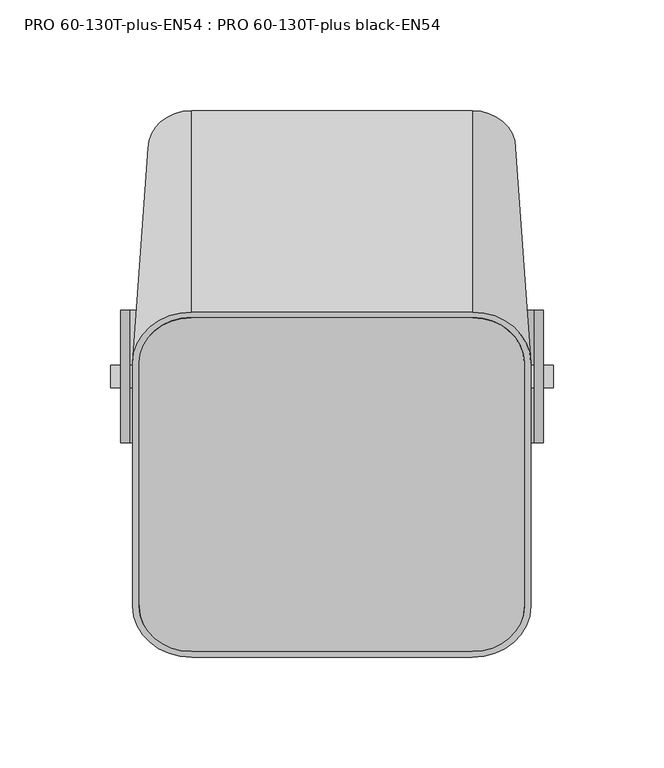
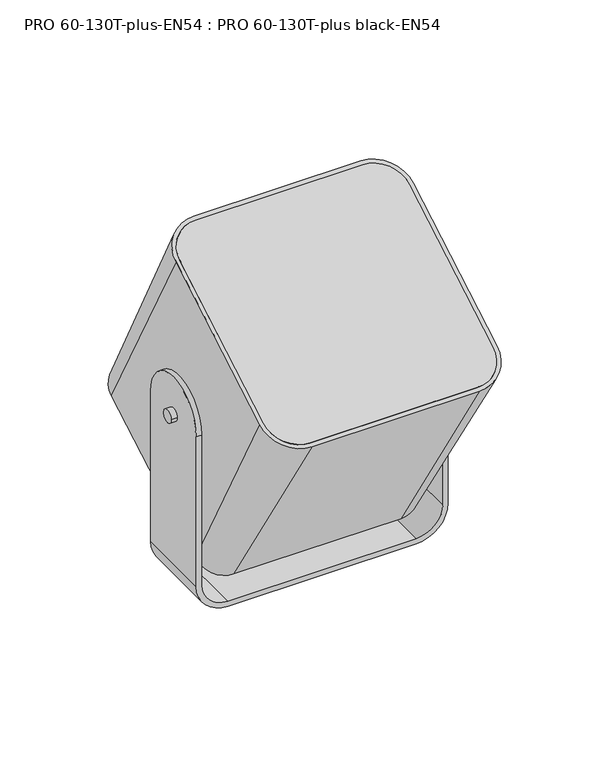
"""IFC4 building model written with IfcOpenShell, lengths in millimetres: proxy geometry, PRO 60-130T-plus-EN54 : PRO 60-130T-plus black-EN54."""

from ifc_helpers import new_model, si_unit, point, frame, frame_2d, origin, place, context, project, spatial, polyline, circle_curve, ellipse_curve, trimmed, segment, composite_curve, outline, extrude, source, transform, mapped, element, save
from ifc_brep_helpers import plane_surface, cylinder_surface, revolved_surface, advanced_brep


def pro_60_130t_plus_en54_pro_60_130t_plus_black_en54_e2d8d6e3(model_context):
    return source(origin(), model_context, "Body", "SolidModel", [
        advanced_brep(
        [(-6.5506555, 12.2914038, 35.3380421), (-6.5506555, 6.5518923, 32.0243336), (-11.236947, 2.4934448, 29.6811878), (-17.864364, 2.4934448, 29.6811878), (-22.5506555, 6.5518923, 32.0243336), (-22.5506555, 12.2914038, 35.3380421), (-17.864364, 16.3498513, 37.6811878), (-11.236947, 16.3498513, 37.6811878), (-14.5506555, 14.6178005, 36.6811878), (-14.5506555, 4.2254956, 30.6811878), (-6.5506555, 10.2914038, 38.8021437), (-11.236947, 14.3498513, 41.1452894), (-17.864364, 14.3498513, 41.1452894), (-22.5506555, 10.2914038, 38.8021437), (-22.5506555, 4.5518923, 35.4884352), (-17.864364, 0.4934448, 33.1452894), (-11.236947, 0.4934448, 33.1452894), (-6.5506555, 4.5518923, 35.4884352), (-14.5506555, 5.2254956, 28.949137), (-14.5506555, 15.6178005, 34.949137), (-6.5506555, 17.5914038, 26.1581728), (-6.5506555, 11.8518923, 22.8444643), (-11.236947, 7.7934448, 20.5013186), (-17.864364, 7.7934448, 20.5013186), (-22.5506555, 11.8518923, 22.8444643), (-22.5506555, 17.5914038, 26.1581728), (-17.864364, 21.6498513, 28.5013186), (-11.236947, 21.6498513, 28.5013186), (-14.5506555, 20.7838259, 28.0013186), (-14.5506555, 8.6594702, 21.0013186), (-6.5506555, 13.2914038, 33.6059913), (-11.236947, 17.3498513, 35.949137), (-17.864364, 17.3498513, 35.949137), (-22.5506555, 13.2914038, 33.6059913), (-22.5506555, 7.5518923, 30.2922828), (-17.864364, 3.4934448, 27.949137), (-11.236947, 3.4934448, 27.949137), (-6.5506555, 7.5518923, 30.2922828), (-14.5506555, 9.4094702, 19.7022804), (-14.5506555, 21.5338259, 26.7022804), (-14.5506555, 20.0697243, 21.2381788), (-14.5506555, 14.8735718, 18.2381788), (-14.5506555, 17.471648, 19.7381788)],
        [
            (0, 1),
            (1, 2),
            (2, 3),
            (3, 4),
            (4, 5),
            (5, 6),
            (6, 7),
            (7, 0),
            (8, 9, circle_curve(frame((-14.5506555, 9.421648, 33.6811878), z_axis=(0.0, -0.5000000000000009, 0.8660254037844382), x_axis=(0.0, 0.8660254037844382, 0.5000000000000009)), 6.0)),
            (9, 8, circle_curve(frame((-14.5506555, 9.421648, 33.6811878), z_axis=(0.0, -0.5000000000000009, 0.8660254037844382), x_axis=(0.0, 0.8660254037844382, 0.5000000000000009)), 6.0)),
            (10, 11),
            (11, 12),
            (12, 13),
            (13, 14),
            (14, 15),
            (15, 16),
            (16, 17),
            (17, 10),
            (18, 9),
            (8, 19),
            (19, 18, circle_curve(frame((-14.5506555, 10.421648, 31.949137), z_axis=(0.0, -0.5000000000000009, 0.8660254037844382), x_axis=(0.0, 0.8660254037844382, 0.5000000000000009)), 6.0)),
            (18, 19, circle_curve(frame((-14.5506555, 10.421648, 31.949137), z_axis=(0.0, -0.5000000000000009, 0.8660254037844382), x_axis=(0.0, 0.8660254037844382, 0.5000000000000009)), 6.0)),
            (20, 21),
            (21, 22),
            (22, 23),
            (23, 24),
            (24, 25),
            (25, 26),
            (26, 27),
            (27, 20),
            (28, 29, circle_curve(frame((-14.5506555, 14.721648, 24.5013186), z_axis=(0.0, -0.5000000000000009, 0.8660254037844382), x_axis=(0.0, 0.8660254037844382, 0.5000000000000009)), 7.0)),
            (29, 28, circle_curve(frame((-14.5506555, 14.721648, 24.5013186), z_axis=(0.0, -0.5000000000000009, 0.8660254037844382), x_axis=(0.0, 0.8660254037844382, 0.5000000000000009)), 7.0)),
            (30, 31),
            (31, 32),
            (32, 33),
            (33, 34),
            (34, 35),
            (35, 36),
            (36, 37),
            (37, 30),
            (38, 29),
            (28, 39),
            (39, 38, circle_curve(frame((-14.5506555, 15.471648, 23.2022804), z_axis=(0.0, -0.5000000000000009, 0.8660254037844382), x_axis=(0.0, 0.8660254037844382, 0.5000000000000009)), 7.0)),
            (38, 39, circle_curve(frame((-14.5506555, 15.471648, 23.2022804), z_axis=(0.0, -0.5000000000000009, 0.8660254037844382), x_axis=(0.0, 0.8660254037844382, 0.5000000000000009)), 7.0)),
            (40, 41, circle_curve(frame((-14.5506555, 17.471648, 19.7381788), z_axis=(0.0, 0.5000000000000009, -0.8660254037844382), x_axis=(0.0, -0.8660254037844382, -0.5000000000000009)), 3.0)),
            (41, 42),
            (42, 40),
            (41, 40, circle_curve(frame((-14.5506555, 17.471648, 19.7381788), z_axis=(0.0, 0.5000000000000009, -0.8660254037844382), x_axis=(0.0, -0.8660254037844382, -0.5000000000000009)), 3.0)),
            (40, 39, circle_curve(frame((-14.5506555, 18.0697243, 24.7022804), z_axis=(1.0, 0.0, 0.0), x_axis=(0.0, -0.8660254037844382, -0.5000000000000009)), 4.0)),
            (38, 41, circle_curve(frame((-14.5506555, 12.8735718, 21.7022804), z_axis=(1.0, 0.0, 0.0), x_axis=(0.0, 0.8660254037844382, 0.5000000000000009)), 4.0)),
            (20, 30),
            (37, 21),
            (36, 22),
            (35, 23),
            (34, 24),
            (33, 25),
            (32, 26),
            (31, 27),
            (0, 10),
            (17, 1),
            (16, 2),
            (15, 3),
            (14, 4),
            (13, 5),
            (12, 6),
            (11, 7),
        ],
        [
            plane_surface(frame((-6.5506555, 12.2914038, 35.3380421), z_axis=(0.0, 0.5000000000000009, -0.8660254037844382), x_axis=(0.0, -0.8660254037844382, -0.5000000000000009))),
            plane_surface(frame((-6.5506555, 10.2914038, 38.8021437), z_axis=(0.0, -0.5000000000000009, 0.8660254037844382), x_axis=(0.0, 0.8660254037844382, 0.5000000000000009))),
            cylinder_surface(frame((-14.5506555, 7.421648, 37.1452894), z_axis=(0.0, 0.5000000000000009, -0.8660254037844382), x_axis=(0.0, 0.8660254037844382, 0.5000000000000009)), 6.0),
            plane_surface(frame((-6.5506555, 17.5914038, 26.1581728), z_axis=(0.0, 0.5000000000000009, -0.8660254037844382), x_axis=(0.0, -0.8660254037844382, -0.5000000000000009))),
            plane_surface(frame((-6.5506555, 13.2914038, 33.6059913), z_axis=(0.0, -0.5000000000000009, 0.8660254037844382), x_axis=(0.0, 0.8660254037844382, 0.5000000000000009))),
            cylinder_surface(frame((-14.5506555, 10.421648, 31.949137), z_axis=(0.0, 0.5000000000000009, -0.8660254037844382), x_axis=(0.0, 0.8660254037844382, 0.5000000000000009)), 7.0),
            plane_surface(frame((-14.5506555, 17.471648, 19.7381788), z_axis=(0.0, 0.5000000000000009, -0.8660254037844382), x_axis=(0.0, -0.8660254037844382, -0.5000000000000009))),
            revolved_surface(trimmed(ellipse_curve(frame((-14.5506555, 12.8735718, 21.7022804), z_axis=(-1.0, 0.0, 0.0), x_axis=(0.0, 0.8660254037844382, 0.5000000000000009)), 4.0, 4.0), [point((-14.5506555, 14.8735718, 18.2381788))], [point((-14.5506555, 9.4094702, 19.7022804))], True, "CARTESIAN"), (-14.5506555, 1110.3291496, -1873.1465392), (0.0, -0.5000000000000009, 0.8660254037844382)),
            plane_surface(frame((-6.5506555, 17.5914038, 26.1581728), z_axis=(1.0, 0.0, 0.0), x_axis=(0.0, -0.5000000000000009, 0.8660254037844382))),
            plane_surface(frame((-6.5506555, 11.8518923, 22.8444643), z_axis=(0.7071067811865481, -0.6123724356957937, -0.35355339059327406), x_axis=(0.0, -0.5000000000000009, 0.8660254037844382))),
            plane_surface(frame((-11.236947, 7.7934448, 20.5013186), z_axis=(0.0, -0.8660254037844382, -0.5000000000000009), x_axis=(0.0, -0.5000000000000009, 0.8660254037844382))),
            plane_surface(frame((-17.864364, 7.7934448, 20.5013186), z_axis=(-0.7071067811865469, -0.6123724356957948, -0.35355339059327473), x_axis=(0.0, -0.5000000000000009, 0.8660254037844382))),
            plane_surface(frame((-22.5506555, 11.8518923, 22.8444643), z_axis=(-1.0, 0.0, 0.0), x_axis=(0.0, -0.5000000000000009, 0.8660254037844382))),
            plane_surface(frame((-22.5506555, 17.5914038, 26.1581728), z_axis=(-0.7071067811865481, 0.6123724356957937, 0.35355339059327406), x_axis=(0.0, -0.5000000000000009, 0.8660254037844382))),
            plane_surface(frame((-17.864364, 21.6498513, 28.5013186), z_axis=(0.0, 0.8660254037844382, 0.5000000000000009), x_axis=(0.0, -0.5000000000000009, 0.8660254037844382))),
            plane_surface(frame((-11.236947, 21.6498513, 28.5013186), z_axis=(0.7071067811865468, 0.6123724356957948, 0.35355339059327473), x_axis=(0.0, -0.5000000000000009, 0.8660254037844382))),
            plane_surface(frame((-6.5506555, 12.2914038, 35.3380421), z_axis=(1.0, 0.0, 0.0), x_axis=(0.0, -0.5000000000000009, 0.8660254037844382))),
            plane_surface(frame((-6.5506555, 6.5518923, 32.0243336), z_axis=(0.7071067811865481, -0.6123724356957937, -0.3535533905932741), x_axis=(0.0, -0.5000000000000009, 0.8660254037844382))),
            plane_surface(frame((-11.236947, 2.4934448, 29.6811878), z_axis=(0.0, -0.8660254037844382, -0.5000000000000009), x_axis=(0.0, -0.5000000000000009, 0.8660254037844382))),
            plane_surface(frame((-17.864364, 2.4934448, 29.6811878), z_axis=(-0.7071067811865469, -0.6123724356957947, -0.3535533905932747), x_axis=(0.0, -0.5000000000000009, 0.8660254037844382))),
            plane_surface(frame((-22.5506555, 6.5518923, 32.0243336), z_axis=(-1.0, 0.0, 0.0), x_axis=(0.0, -0.5000000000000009, 0.8660254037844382))),
            plane_surface(frame((-22.5506555, 12.2914038, 35.3380421), z_axis=(-0.7071067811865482, 0.6123724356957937, 0.35355339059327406), x_axis=(0.0, -0.5000000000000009, 0.8660254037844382))),
            plane_surface(frame((-17.864364, 16.3498513, 37.6811878), z_axis=(0.0, 0.8660254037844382, 0.5000000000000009), x_axis=(0.0, -0.5000000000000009, 0.8660254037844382))),
            plane_surface(frame((-11.236947, 16.3498513, 37.6811878), z_axis=(0.707106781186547, 0.6123724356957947, 0.3535533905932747), x_axis=(0.0, -0.5000000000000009, 0.8660254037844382))),
        ],
        [
            (0, [[1, 2, 3, 4, 5, 6, 7, 8], [9, 10]]),
            (1, [[11, 12, 13, 14, 15, 16, 17, 18]]),
            (2, [[19, -9, 20, 21]]),
            (2, [[-19, 22, -20, -10]]),
            (3, [[23, 24, 25, 26, 27, 28, 29, 30], [31, 32]]),
            (4, [[33, 34, 35, 36, 37, 38, 39, 40], [-21, -22]]),
            (5, [[41, -31, 42, 43]]),
            (5, [[-41, 44, -42, -32]]),
            (6, [[45, 46, 47]]),
            (6, [[-46, 48, -47]]),
            (7, [[-45, 49, -44, 50]]),
            (7, [[-48, -50, -43, -49]]),
            (8, [[-23, 51, -40, 52]]),
            (9, [[-24, -52, -39, 53]]),
            (10, [[-25, -53, -38, 54]]),
            (11, [[-26, -54, -37, 55]]),
            (12, [[-27, -55, -36, 56]]),
            (13, [[-28, -56, -35, 57]]),
            (14, [[-29, -57, -34, 58]]),
            (15, [[-30, -58, -33, -51]]),
            (16, [[-1, 59, -18, 60]]),
            (17, [[-2, -60, -17, 61]]),
            (18, [[-3, -61, -16, 62]]),
            (19, [[-4, -62, -15, 63]]),
            (20, [[-5, -63, -14, 64]]),
            (21, [[-6, -64, -13, 65]]),
            (22, [[-7, -65, -12, 66]]),
            (23, [[-8, -66, -11, -59]]),
        ],
    ),
        extrude(outline(composite_curve([segment(trimmed(circle_curve(frame_2d((0.0, -23.5)), 23.5), [point((0.0, 0.0))], [point((23.5, -23.5))], False, "CARTESIAN"), True, "CONTINUOUS"), segment(polyline([(23.5, -23.5), (23.5, -150.5)]), True, "CONTINUOUS"), segment(trimmed(circle_curve(frame_2d((0.0, -150.5)), 23.5), [point((23.5, -150.5))], [point((0.0, -174.0))], False, "CARTESIAN"), True, "CONTINUOUS"), segment(polyline([(0.0, -174.0), (-126.9999999, -174.0)]), True, "CONTINUOUS"), segment(trimmed(circle_curve(frame_2d((-126.9999999, -150.5)), 23.5), [point((-126.9999999, -174.0))], [point((-150.4999999, -150.5))], False, "CARTESIAN"), True, "CONTINUOUS"), segment(polyline([(-150.4999999, -150.5), (-150.4999999, -23.5)]), True, "CONTINUOUS"), segment(trimmed(circle_curve(frame_2d((-126.9999999, -23.5)), 23.5), [point((-150.4999999, -23.5))], [point((-126.9999999, 0.0))], False, "CARTESIAN"), True, "CONTINUOUS"), segment(polyline([(-126.9999999, 0.0), (0.0, 0.0)]), True, "CONTINUOUS")], self_intersect=False)), frame((87.0, -103.3676131, 196.0379969), z_axis=(0.0, -0.5000000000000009, 0.8660254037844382), x_axis=(0.0, -0.8660254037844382, -0.5000000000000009)), (0.0, 0.0, 1.0), 1.0),
        extrude(outline(composite_curve([segment(trimmed(circle_curve(frame_2d((0.0, -23.5)), 23.5), [point((0.0, 0.0))], [point((23.5, -23.5))], False, "CARTESIAN"), True, "CONTINUOUS"), segment(polyline([(23.5, -23.5), (23.5, -150.5)]), True, "CONTINUOUS"), segment(trimmed(circle_curve(frame_2d((0.0, -150.5)), 23.5), [point((23.5, -150.5))], [point((0.0, -174.0))], False, "CARTESIAN"), True, "CONTINUOUS"), segment(polyline([(0.0, -174.0), (-126.9999999, -174.0)]), True, "CONTINUOUS"), segment(trimmed(circle_curve(frame_2d((-126.9999999, -150.5)), 23.5), [point((-126.9999999, -174.0))], [point((-150.4999999, -150.5))], False, "CARTESIAN"), True, "CONTINUOUS"), segment(polyline([(-150.4999999, -150.5), (-150.4999999, -23.5)]), True, "CONTINUOUS"), segment(trimmed(circle_curve(frame_2d((-126.9999999, -23.5)), 23.5), [point((-150.4999999, -23.5))], [point((-126.9999999, 0.0))], False, "CARTESIAN"), True, "CONTINUOUS"), segment(polyline([(-126.9999999, 0.0), (0.0, 0.0)]), True, "CONTINUOUS")], self_intersect=False)), frame((87.0, -101.8676131, 193.4399207), z_axis=(0.0, -0.5000000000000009, 0.8660254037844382), x_axis=(0.0, -0.8660254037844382, -0.5000000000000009)), (0.0, 0.0, 1.0), 1.0),
        advanced_brep(
        [(63.5, 120.0049844, 102.145309), (83.0, 103.117489, 92.395309), (83.0, -6.8677373, 28.895309), (63.5, -23.7552327, 19.145309), (-63.5, -23.7552327, 19.145309), (-83.0, -6.8677373, 28.895309), (-83.0, 103.117489, 92.395309), (-63.5, 120.0049844, 102.145309), (63.5, 29.0672863, 273.6540223), (-63.5, 29.0672863, 273.6540223), (-90.0, 6.1176131, 260.4040223), (-90.0, -103.8676131, 196.9040223), (-63.5, -126.8172863, 183.6540223), (63.5, -126.8172863, 183.6540223), (90.0, -103.8676131, 196.9040223), (90.0, 6.1176131, 260.4040223), (87.0, 6.1176131, 260.4040223), (87.0, -103.8676131, 196.9040223), (63.5, -124.2192101, 185.1540223), (-63.5, -124.2192101, 185.1540223), (-87.0, -103.8676131, 196.9040223), (-87.0, 6.1176131, 260.4040223), (-63.5, 26.4692101, 272.1540223), (63.5, 26.4692101, 272.1540223), (87.0, 8.1176131, 256.9399207), (63.5, 28.4692101, 268.6899207), (-63.5, 28.4692101, 268.6899207), (-87.0, 8.1176131, 256.9399207), (-87.0, -101.8676131, 193.4399207), (-63.5, -122.2192101, 181.6899207), (63.5, -122.2192101, 181.6899207), (87.0, -101.8676131, 193.4399207)],
        [
            (0, 1, circle_curve(frame((63.5, 103.117489, 92.395309), z_axis=(0.0, 0.5000000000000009, -0.8660254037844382), x_axis=(0.0, 0.8660254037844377, 0.5000000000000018)), 19.5)),
            (1, 2),
            (2, 3, circle_curve(frame((63.5, -6.8677373, 28.895309), z_axis=(0.0, 0.500000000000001, -0.866025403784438), x_axis=(1.0, 0.0, 0.0)), 19.5)),
            (3, 4),
            (4, 5, circle_curve(frame((-63.5, -6.8677373, 28.895309), z_axis=(0.0, 0.500000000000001, -0.866025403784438), x_axis=(0.0, -0.8660254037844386, -0.5000000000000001)), 19.5)),
            (5, 6),
            (6, 7, circle_curve(frame((-63.5, 103.117489, 92.395309), z_axis=(0.0, 0.5000000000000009, -0.8660254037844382), x_axis=(-1.0, 0.0, 0.0)), 19.5)),
            (7, 0),
            (8, 9),
            (9, 10, circle_curve(frame((-63.5, 6.1176131, 260.4040223), z_axis=(0.0, -0.5000000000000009, 0.8660254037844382), x_axis=(-1.0, 0.0, 0.0)), 26.5)),
            (10, 11),
            (11, 12, circle_curve(frame((-63.5, -103.8676131, 196.9040223), z_axis=(0.0, -0.500000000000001, 0.866025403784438), x_axis=(0.0, -0.8660254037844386, -0.5000000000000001)), 26.5)),
            (12, 13),
            (13, 14, circle_curve(frame((63.5, -103.8676131, 196.9040223), z_axis=(0.0, -0.500000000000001, 0.866025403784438), x_axis=(1.0, 0.0, 0.0)), 26.5)),
            (14, 15),
            (15, 8, circle_curve(frame((63.5, 6.1176131, 260.4040223), z_axis=(0.0, -0.5000000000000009, 0.8660254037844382), x_axis=(0.0, 0.8660254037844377, 0.5000000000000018)), 26.5)),
            (16, 17),
            (17, 18, circle_curve(frame((63.5, -103.8676131, 196.9040223), z_axis=(0.0, 0.5000000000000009, -0.8660254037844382), x_axis=(1.0, 0.0, 0.0)), 23.5)),
            (18, 19),
            (19, 20, circle_curve(frame((-63.5, -103.8676131, 196.9040223), z_axis=(0.0, 0.5000000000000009, -0.8660254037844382), x_axis=(0.0, -0.8660254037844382, -0.5000000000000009)), 23.5)),
            (20, 21),
            (21, 22, circle_curve(frame((-63.5, 6.1176131, 260.4040223), z_axis=(0.0, 0.5000000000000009, -0.8660254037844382), x_axis=(-1.0, 0.0, 0.0)), 23.5)),
            (22, 23),
            (23, 16, circle_curve(frame((63.5, 6.1176131, 260.4040223), z_axis=(0.0, 0.5000000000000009, -0.8660254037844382), x_axis=(0.0, 0.8660254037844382, 0.5000000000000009)), 23.5)),
            (7, 9),
            (8, 0),
            (6, 10),
            (5, 11),
            (4, 12),
            (3, 13),
            (2, 14),
            (1, 15),
            (24, 25, circle_curve(frame((63.5, 8.1176131, 256.9399207), z_axis=(0.0, -0.5000000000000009, 0.8660254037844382), x_axis=(0.0, 0.8660254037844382, 0.5000000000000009)), 23.5)),
            (25, 26),
            (26, 27, circle_curve(frame((-63.5, 8.1176131, 256.9399207), z_axis=(0.0, -0.5000000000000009, 0.8660254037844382), x_axis=(-1.0, 0.0, 0.0)), 23.5)),
            (27, 28),
            (28, 29, circle_curve(frame((-63.5, -101.8676131, 193.4399207), z_axis=(0.0, -0.5000000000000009, 0.8660254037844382), x_axis=(0.0, -0.8660254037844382, -0.5000000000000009)), 23.5)),
            (29, 30),
            (30, 31, circle_curve(frame((63.5, -101.8676131, 193.4399207), z_axis=(0.0, -0.5000000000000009, 0.8660254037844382), x_axis=(1.0, 0.0, 0.0)), 23.5)),
            (31, 24),
            (31, 17),
            (16, 24),
            (30, 18),
            (29, 19),
            (28, 20),
            (27, 21),
            (26, 22),
            (25, 23),
        ],
        [
            plane_surface(frame((0.0, 48.1248759, 60.645309), z_axis=(0.0, 0.5000000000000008, -0.8660254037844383), x_axis=(0.0, -0.8660254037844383, -0.5000000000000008))),
            plane_surface(frame((0.0, -48.875, 228.6540223), z_axis=(0.0, -0.5000000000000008, 0.8660254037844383), x_axis=(0.0, -0.8660254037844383, -0.5000000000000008))),
            plane_surface(frame((0.0, 29.0672863, 273.6540223), z_axis=(0.0, 0.8834917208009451, 0.468446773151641), x_axis=(1.0, 0.0, 0.0))),
            revolved_surface(polyline([(-82.99999999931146, 103.11748898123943, 92.39530897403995), (-90.00000000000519, 6.1176130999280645, 260.4040223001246)]), (-63.5, 373.3314289, -375.6289638), (0.0, -0.5000000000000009, 0.8660254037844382)),
            plane_surface(frame((-90.0, -48.875, 228.6540223), z_axis=(-0.9993496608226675, 0.018029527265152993, -0.03122805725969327), x_axis=(0.0, 0.8660254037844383, 0.5000000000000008))),
            revolved_surface(polyline([(-63.5, -23.755232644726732, 19.14530901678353), (-63.5, -126.81728630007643, 183.654022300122)]), (-63.5, 263.3462026, -439.1289638), (0.0, -0.500000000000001, 0.866025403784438)),
            plane_surface(frame((0.0, -126.8172863, 183.6540223), z_axis=(0.0, -0.8474326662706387, -0.5309028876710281), x_axis=(-1.0, 0.0, 0.0))),
            revolved_surface(polyline([(83.00000000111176, -6.867737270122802, 28.895309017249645), (90.0, -103.86761310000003, 196.9040223)]), (63.5, 263.3462026, -439.1289638), (0.0, -0.500000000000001, 0.866025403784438)),
            plane_surface(frame((90.0, -48.875, 228.6540223), z_axis=(0.9993496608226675, 0.018029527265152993, -0.03122805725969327), x_axis=(0.0, -0.8660254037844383, -0.5000000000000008))),
            revolved_surface(polyline([(63.5, 120.00498435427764, 102.14530897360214), (63.5, 29.067286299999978, 273.6540223)]), (63.5, 373.3314289, -375.6289638), (0.0, -0.5000000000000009, 0.8660254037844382)),
            plane_surface(frame((87.0, -101.8676131, 193.4399207), z_axis=(0.0, -0.5000000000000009, 0.8660254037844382), x_axis=(0.0, -0.8660254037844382, -0.5000000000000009))),
            plane_surface(frame((87.0, 8.1176131, 256.9399207), z_axis=(-1.0000000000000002, 0.0, 0.0), x_axis=(0.0, -0.5000000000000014, 0.8660254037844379))),
            revolved_surface(polyline([(87.0, -101.86761310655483, 193.43992069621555), (87.0, -103.86761310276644, 196.90402230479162)]), (63.5, -103.8676131, 196.9040223), (0.0, 0.5000000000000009, -0.8660254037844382)),
            plane_surface(frame((63.5, -122.2192101, 181.6899207), z_axis=(0.0, 0.866025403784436, 0.5000000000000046), x_axis=(0.0, -0.5000000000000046, 0.866025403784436))),
            revolved_surface(polyline([(-63.5, -122.21921009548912, 181.68992069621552), (-63.5, -124.21921009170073, 185.1540223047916)]), (-63.5, -103.8676131, 196.9040223), (0.0, 0.5000000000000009, -0.8660254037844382)),
            plane_surface(frame((-87.0, -101.8676131, 193.4399207), z_axis=(1.0000000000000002, 0.0, 0.0), x_axis=(0.0, -0.5000000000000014, 0.8660254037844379))),
            revolved_surface(polyline([(-87.0, 8.117613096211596, 256.939920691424), (-87.0, 6.1176131, 260.4040223)]), (-63.5, 6.1176131, 260.4040223), (0.0, 0.5000000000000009, -0.8660254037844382)),
            plane_surface(frame((-63.5, 28.4692101, 268.6899207), z_axis=(0.0, -0.8660254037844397, -0.4999999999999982), x_axis=(0.0, -0.4999999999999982, 0.8660254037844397))),
            revolved_surface(polyline([(63.5, 28.469210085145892, 268.689920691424), (63.5, 26.469210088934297, 272.1540223)]), (63.5, 6.1176131, 260.4040223), (0.0, 0.5000000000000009, -0.8660254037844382)),
        ],
        [
            (0, [[1, 2, 3, 4, 5, 6, 7, 8]]),
            (1, [[9, 10, 11, 12, 13, 14, 15, 16], [17, 18, 19, 20, 21, 22, 23, 24]]),
            (2, [[-8, 25, -9, 26]]),
            (3, [[-7, 27, -10, -25]]),
            (4, [[-6, 28, -11, -27]]),
            (5, [[-5, 29, -12, -28]]),
            (6, [[-4, 30, -13, -29]]),
            (7, [[-3, 31, -14, -30]]),
            (8, [[-2, 32, -15, -31]]),
            (9, [[-1, -26, -16, -32]]),
            (10, [[33, 34, 35, 36, 37, 38, 39, 40]]),
            (11, [[-40, 41, -17, 42]]),
            (12, [[-39, 43, -18, -41]]),
            (13, [[-38, 44, -19, -43]]),
            (14, [[-37, 45, -20, -44]]),
            (15, [[-36, 46, -21, -45]]),
            (16, [[-35, 47, -22, -46]]),
            (17, [[-34, 48, -23, -47]]),
            (18, [[-33, -42, -24, -48]]),
        ],
    ),
        extrude(outline(composite_curve([segment(trimmed(circle_curve(frame_2d((0.0, 144.0000391)), 5.0), [point((-5.0, 144.0000391))], [point((5.0, 144.0000391))], False, "CARTESIAN"), True, "CONTINUOUS"), segment(trimmed(circle_curve(frame_2d((0.0, 144.0000391)), 5.0), [point((5.0, 144.0000391))], [point((-5.0, 144.0000391))], False, "CARTESIAN"), True, "CONTINUOUS")], self_intersect=False)), frame((-100.0, 0.0, 0.0), z_axis=(1.0, 0.0, 0.0), x_axis=(0.0, 1.0, 0.0)), (0.0, 0.0, 1.0), 200.0),
        advanced_brep(
        [(-71.5, -30.0, 0.0), (71.5000503, -30.0, 0.0), (95.4998435, -30.0, 23.9997932), (95.4998435, -30.0, 144.0000391), (91.4998435, -30.0, 144.0000391), (91.4998435, -30.0, 23.9997932), (71.5000503, -30.0, 4.0), (-71.5, -30.0, 4.0), (-91.5, -30.0, 24.0), (-91.5, -30.0, 144.0000391), (-95.5, -30.0, 144.0000391), (-95.5, -30.0, 24.0), (-71.5, 30.0, 0.0), (-95.5, 30.0, 24.0), (-95.5, 30.0, 144.0000391), (-91.5, 30.0, 144.0000391), (-91.5, 30.0, 24.0), (-71.5, 30.0, 4.0), (71.5000503, 30.0, 4.0), (91.4998435, 30.0, 23.9997932), (91.4998435, 30.0, 144.0000391), (95.4998435, 30.0, 144.0000391), (95.4998435, 30.0, 23.9997932), (71.5000503, 30.0, 0.0), (95.4998435, 0.0, 174.0000391), (91.4998435, 0.0, 174.0000391), (-91.5, 0.0, 174.0000391), (-95.5, 0.0, 174.0000391)],
        [
            (0, 1),
            (1, 2, circle_curve(frame((71.5000503, -30.0, 23.9997932), z_axis=(0.0, -1.0, 0.0), x_axis=(1.0, 0.0, 0.0)), 23.9997932)),
            (2, 3),
            (3, 4),
            (4, 5),
            (5, 6, circle_curve(frame((71.5000503, -30.0, 23.9997932), z_axis=(0.0, 1.0, 0.0), x_axis=(1.0, 0.0, 0.0)), 19.9997932)),
            (6, 7),
            (7, 8, circle_curve(frame((-71.5, -30.0, 24.0), z_axis=(0.0, 1.0, 0.0), x_axis=(1.0, 0.0, 0.0)), 20.0)),
            (8, 9),
            (9, 10),
            (10, 11),
            (11, 0, circle_curve(frame((-71.5, -30.0, 24.0), z_axis=(0.0, -1.0, 0.0), x_axis=(1.0, 0.0, 0.0)), 24.0)),
            (12, 13, circle_curve(frame((-71.5, 30.0, 24.0), z_axis=(0.0, 1.0, 0.0), x_axis=(1.0, 0.0, 0.0)), 24.0)),
            (13, 14),
            (14, 15),
            (15, 16),
            (16, 17, circle_curve(frame((-71.5, 30.0, 24.0), z_axis=(0.0, -1.0, 0.0), x_axis=(1.0, 0.0, 0.0)), 20.0)),
            (17, 18),
            (18, 19, circle_curve(frame((71.5000503, 30.0, 23.9997932), z_axis=(0.0, -1.0, 0.0), x_axis=(1.0, 0.0, 0.0)), 19.9997932)),
            (19, 20),
            (20, 21),
            (21, 22),
            (22, 23, circle_curve(frame((71.5000503, 30.0, 23.9997932), z_axis=(0.0, 1.0, 0.0), x_axis=(1.0, 0.0, 0.0)), 23.9997932)),
            (23, 12),
            (0, 12),
            (23, 1),
            (22, 2),
            (21, 24, circle_curve(frame((95.4998435, 0.0, 144.0000391), z_axis=(1.0, 0.0, 0.0), x_axis=(0.0, 1.0, 0.0)), 30.0)),
            (24, 3, circle_curve(frame((95.4998435, 0.0, 144.0000391), z_axis=(1.0, 0.0, 0.0), x_axis=(0.0, 1.0, 0.0)), 30.0)),
            (19, 5),
            (4, 25, circle_curve(frame((91.4998435, 0.0, 144.0000391), z_axis=(-1.0, 0.0, 0.0), x_axis=(0.0, 1.0, 0.0)), 30.0)),
            (25, 20, circle_curve(frame((91.4998435, 0.0, 144.0000391), z_axis=(-1.0, 0.0, 0.0), x_axis=(0.0, 1.0, 0.0)), 30.0)),
            (18, 6),
            (17, 7),
            (16, 8),
            (15, 26, circle_curve(frame((-91.5, 0.0, 144.0000391), z_axis=(1.0, 0.0, 0.0), x_axis=(0.0, 1.0, 0.0)), 30.0)),
            (26, 9, circle_curve(frame((-91.5, 0.0, 144.0000391), z_axis=(1.0, 0.0, 0.0), x_axis=(0.0, 1.0, 0.0)), 30.0)),
            (13, 11),
            (10, 27, circle_curve(frame((-95.5, 0.0, 144.0000391), z_axis=(-1.0, 0.0, 0.0), x_axis=(0.0, 1.0, 0.0)), 30.0)),
            (27, 14, circle_curve(frame((-95.5, 0.0, 144.0000391), z_axis=(-1.0, 0.0, 0.0), x_axis=(0.0, 1.0, 0.0)), 30.0)),
        ],
        [
            plane_surface(frame((71.5000503, -30.0, 0.0), z_axis=(0.0, -1.0, 0.0), x_axis=(1.0, 0.0, 0.0))),
            plane_surface(frame((71.5000503, 30.0, 0.0), z_axis=(0.0, 1.0, 0.0), x_axis=(-1.0, 0.0, 0.0))),
            plane_surface(frame((-71.5, -30.0, 0.0), z_axis=(0.0, 0.0, -1.0), x_axis=(0.0, 1.0, 0.0))),
            cylinder_surface(frame((71.5000503, 30.0, 23.9997932), z_axis=(0.0, -1.0, 0.0), x_axis=(1.0, 0.0, 0.0)), 23.9997932),
            plane_surface(frame((95.4998435, -30.0, 23.9997932), z_axis=(1.0, 0.0, 0.0), x_axis=(0.0, 1.0, 0.0))),
            plane_surface(frame((91.4998435, -30.0, 174.0000391), z_axis=(-1.0, 0.0, 0.0), x_axis=(0.0, 1.0, 0.0))),
            revolved_surface(polyline([(91.4998435, 30.0, 23.9997932), (91.4998435, -30.0, 23.9997932)]), (71.5000503, 30.0, 23.9997932), (0.0, 1.0, 0.0)),
            plane_surface(frame((71.5000503, -30.0, 4.0), z_axis=(0.0, 0.0, 1.0), x_axis=(0.0, 1.0, 0.0))),
            revolved_surface(polyline([(-51.5, 30.0, 24.0), (-51.5, -30.0, 24.0)]), (-71.5, 30.0, 24.0), (0.0, 1.0, 0.0)),
            plane_surface(frame((-91.5, -30.0, 24.0), z_axis=(1.0, 0.0, 0.0), x_axis=(0.0, 1.0, 0.0))),
            plane_surface(frame((-95.5, -30.0, 174.0000391), z_axis=(-1.0, 0.0, 0.0), x_axis=(0.0, 1.0, 0.0))),
            cylinder_surface(frame((-71.5, 30.0, 24.0), z_axis=(0.0, -1.0, 0.0), x_axis=(1.0, 0.0, 0.0)), 24.0),
            cylinder_surface(frame((-100.0, 0.0, 144.0000391), z_axis=(-1.0, 0.0, 0.0), x_axis=(0.0, 1.0, 0.0)), 30.0),
        ],
        [
            (0, [[1, 2, 3, 4, 5, 6, 7, 8, 9, 10, 11, 12]]),
            (1, [[13, 14, 15, 16, 17, 18, 19, 20, 21, 22, 23, 24]]),
            (2, [[-1, 25, -24, 26]]),
            (3, [[-2, -26, -23, 27]]),
            (4, [[-27, -22, 28, 29, -3]]),
            (5, [[30, -5, 31, 32, -20]]),
            (6, [[-6, -30, -19, 33]]),
            (7, [[-7, -33, -18, 34]]),
            (8, [[-8, -34, -17, 35]]),
            (9, [[-35, -16, 36, 37, -9]]),
            (10, [[38, -11, 39, 40, -14]]),
            (11, [[-12, -38, -13, -25]]),
            (12, [[-4, -29, -28, -21, -32, -31]]),
            (12, [[-10, -37, -36, -15, -40, -39]]),
        ],
    ),
    ])


if __name__ == "__main__":
    model = new_model("IFC4")
    model_context = context("Model", 3, world=origin())
    ifc_project = project(units=[si_unit("LENGTHUNIT", "METRE", prefix="MILLI")], contexts=[model_context])
    site = spatial("IfcSite", under=ifc_project)
    building = spatial("IfcBuilding", under=site)
    placement = place(None, origin())
    pro_60_130t_plus_en54_pro_60_130t_plus_black_en54_shape = pro_60_130t_plus_en54_pro_60_130t_plus_black_en54_e2d8d6e3(model_context)
    element("IfcBuildingElementProxy", 1, Name="PRO 60-130T-plus-EN54 : PRO 60-130T-plus black-EN54", ObjectType="PRO 60-130T-plus-EN54 : PRO 60-130T-plus black-EN54", at=placement, inside=building, context=model_context, shape_type="MappedRepresentation", body=[
        mapped(pro_60_130t_plus_en54_pro_60_130t_plus_black_en54_shape, transform((0.0, 0.0, 0.0), x_axis=(1.0, 0.0, 0.0), y_axis=(0.0, 1.0, 0.0), z_axis=(0.0, 0.0, 1.0))),
    ])
    save(model, "model.ifc")
